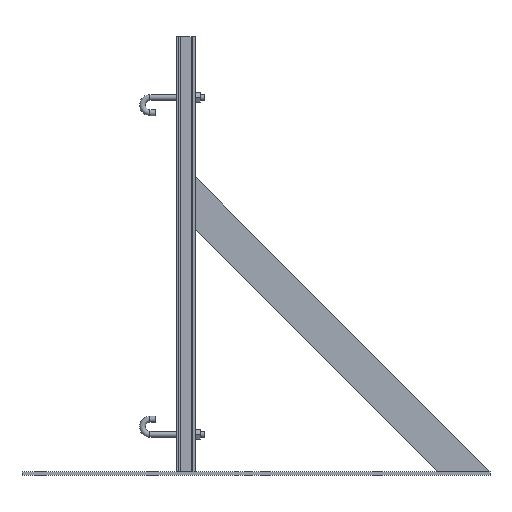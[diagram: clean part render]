
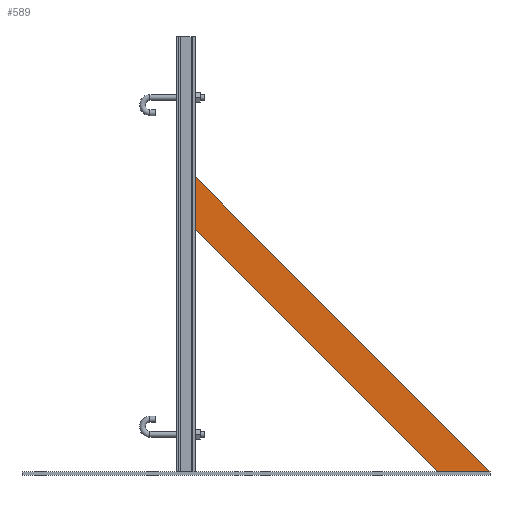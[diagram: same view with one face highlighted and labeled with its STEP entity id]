
A CAD part, left-side view. The second image highlights one B-rep face of the part: STEP entity #589.
In plain terms, the highlighted planar face has unit normal (-1, 0, 0).
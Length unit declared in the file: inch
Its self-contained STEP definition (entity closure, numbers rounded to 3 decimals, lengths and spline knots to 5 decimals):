
#12 = CARTESIAN_POINT ( 'NONE',  ( -0.1875, -9.67161, 0. ) ) ;
#37 = CARTESIAN_POINT ( 'NONE',  ( -0.1875, -9.67161, 0. ) ) ;
#74 = CARTESIAN_POINT ( 'NONE',  ( -0.1875, 3.47, 15.97045 ) ) ;
#101 = EDGE_CURVE ( 'NONE', #1477, #1475, #2058, .T. ) ;
#120 = EDGE_CURVE ( 'NONE', #814, #872, #1948, .T. ) ;
#248 = CARTESIAN_POINT ( 'NONE',  ( -0.1875, 3.47, 23.25 ) ) ;
#414 = DIRECTION ( 'NONE',  ( 0., 0.707, 0.707 ) ) ;
#425 = DIRECTION ( 'NONE',  ( 0., 0., -1. ) ) ;
#427 = CARTESIAN_POINT ( 'NONE',  ( -0.1875, 3.94, 13.612 ) ) ;
#533 = DIRECTION ( 'NONE',  ( 0., -0.707, -0.707 ) ) ;
#541 = CARTESIAN_POINT ( 'NONE',  ( -0.1875, -12.5, 0. ) ) ;
#560 = DIRECTION ( 'NONE',  ( 0., 0., -1. ) ) ;
#578 = DIRECTION ( 'NONE',  ( 1., 0., 0. ) ) ;
#589 = ADVANCED_FACE ( 'NONE', ( #1620 ), #596, .F. ) ;
#596 = PLANE ( 'NONE',  #1183 ) ;
#714 = CARTESIAN_POINT ( 'NONE',  ( -0.1875, 0., 0. ) ) ;
#814 = VERTEX_POINT ( 'NONE', #12 ) ;
#872 = VERTEX_POINT ( 'NONE', #1030 ) ;
#892 = LINE ( 'NONE', #248, #1781 ) ;
#1030 = CARTESIAN_POINT ( 'NONE',  ( -0.1875, 3.47, 13.14198 ) ) ;
#1183 = AXIS2_PLACEMENT_3D ( 'NONE', #714, #578, #560 ) ;
#1471 = VECTOR ( 'NONE', #414, 39.37008 ) ;
#1475 = VERTEX_POINT ( 'NONE', #2218 ) ;
#1477 = VERTEX_POINT ( 'NONE', #74 ) ;
#1504 = DIRECTION ( 'NONE',  ( 0., 1., 0. ) ) ;
#1539 = VECTOR ( 'NONE', #533, 39.37008 ) ;
#1620 = FACE_OUTER_BOUND ( 'NONE', #2240, .T. ) ;
#1781 = VECTOR ( 'NONE', #425, 39.37008 ) ;
#1810 = LINE ( 'NONE', #37, #2207 ) ;
#1821 = EDGE_CURVE ( 'NONE', #1475, #814, #1810, .T. ) ;
#1860 = ORIENTED_EDGE ( 'NONE', *, *, #101, .F. ) ;
#1910 = ORIENTED_EDGE ( 'NONE', *, *, #2322, .T. ) ;
#1948 = LINE ( 'NONE', #427, #1471 ) ;
#1968 = ORIENTED_EDGE ( 'NONE', *, *, #120, .F. ) ;
#2058 = LINE ( 'NONE', #541, #1539 ) ;
#2207 = VECTOR ( 'NONE', #1504, 39.37008 ) ;
#2218 = CARTESIAN_POINT ( 'NONE',  ( -0.1875, -12.5, 0. ) ) ;
#2231 = ORIENTED_EDGE ( 'NONE', *, *, #1821, .F. ) ;
#2240 = EDGE_LOOP ( 'NONE', ( #1860, #1910, #1968, #2231 ) ) ;
#2322 = EDGE_CURVE ( 'NONE', #1477, #872, #892, .T. ) ;
